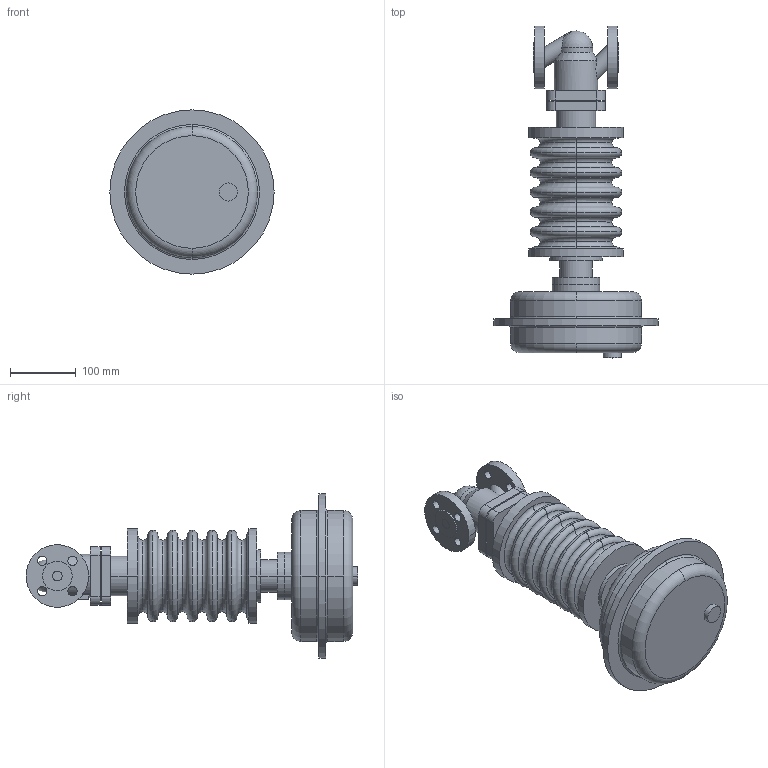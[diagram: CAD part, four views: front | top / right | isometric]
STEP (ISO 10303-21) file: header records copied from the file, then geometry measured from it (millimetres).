
FILE_DESCRIPTION( ( '' ), '1' );
FILE_NAME( 'F:/DE-SHS/TB/OR/04-Sonstiges/daten/files_3d/PREDU/PREDU-PN16-DMA250/c000005351.stp', '2014-06-03T11:11:49', ( '' ), ( '' ), ' ', ' ', ' ' );
FILE_SCHEMA( ( 'CONFIG_CONTROL_DESIGN' ) );
Length unit declared in the file: millimetre
Products named in the file (2): 1; 2
Bounding box: 249 x 503.5 x 249 mm (x, y, z)
Volume: 6403473.5 mm3; surface area: 405305.8 mm2
Topology: 2 solids, 2 shells, 173 faces, 414 edges, 266 vertices
Faces by surface type: cylinder 68, torus 54, plane 48, cone 2, sphere 1
Entity records: 5558 total; most frequent: CARTESIAN_POINT 1183, DIRECTION 1024, ORIENTED_EDGE 824, AXIS2_PLACEMENT_3D 449, EDGE_CURVE 412, CIRCLE 268, VERTEX_POINT 266, EDGE_LOOP 212
